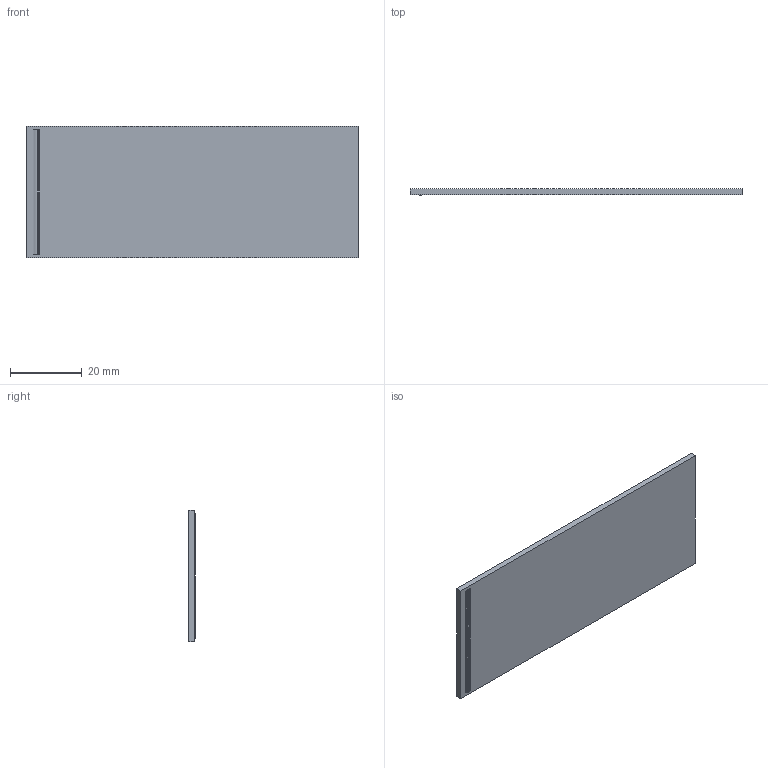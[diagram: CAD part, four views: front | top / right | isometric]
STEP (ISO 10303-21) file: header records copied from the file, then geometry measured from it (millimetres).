
FILE_DESCRIPTION (( 'STEP AP203' ), '1' );
FILE_NAME ('Ballast Holder Cover Long.STEP', '2025-05-08T01:58:02', ( '' ), ( '' ), 'SwSTEP 2.0', 'SolidWorks 2023', '' );
FILE_SCHEMA (( 'CONFIG_CONTROL_DESIGN' ));
Length unit declared in the file: millimetre
Products named in the file (1): Ballast Holder Cover Long
Bounding box: 92.4 x 1.81 x 36.7 mm (x, y, z)
Volume: 5600.4 mm3; surface area: 7209.8 mm2
Topology: 1 solids, 1 shells, 13 faces, 30 edges, 20 vertices
Faces by surface type: plane 10, cylinder 3
Entity records: 447 total; most frequent: DIRECTION 64, CARTESIAN_POINT 64, ORIENTED_EDGE 60, EDGE_CURVE 30, VECTOR 24, LINE 24, VERTEX_POINT 20, AXIS2_PLACEMENT_3D 20
